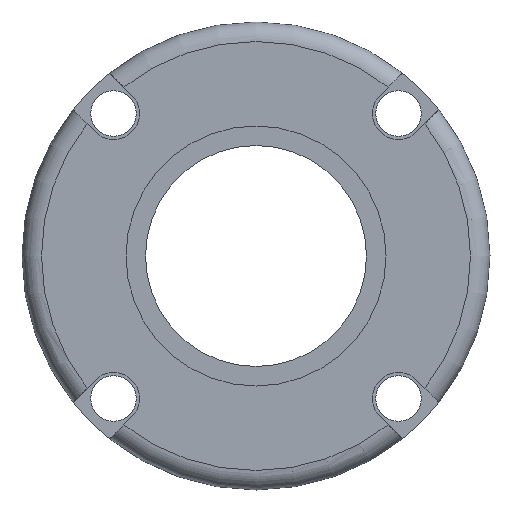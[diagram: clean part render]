
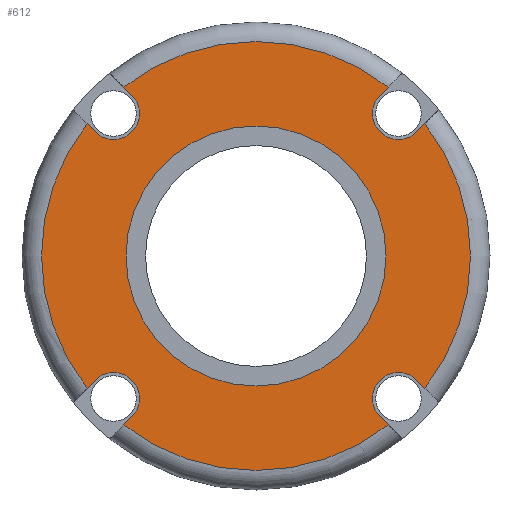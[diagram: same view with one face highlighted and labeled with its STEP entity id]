
A CAD part, left-side view. The second image highlights one B-rep face of the part: STEP entity #612.
In plain terms, the highlighted planar face has unit normal (-1, 0, 0).
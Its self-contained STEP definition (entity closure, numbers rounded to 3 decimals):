
#45=FACE_BOUND($,#202,.T.);
#46=FACE_BOUND($,#203,.T.);
#75=LINE($,#966,#115);
#79=LINE($,#976,#119);
#80=LINE($,#980,#120);
#81=LINE($,#984,#121);
#82=LINE($,#988,#122);
#83=LINE($,#992,#123);
#84=LINE($,#996,#124);
#85=LINE($,#1000,#125);
#115=VECTOR($,#740,1.757);
#119=VECTOR($,#748,1.757);
#120=VECTOR($,#751,1.757);
#121=VECTOR($,#754,1.757);
#122=VECTOR($,#757,1.757);
#123=VECTOR($,#760,1.757);
#124=VECTOR($,#763,1.757);
#125=VECTOR($,#766,1.757);
#156=PLANE($,#652);
#202=EDGE_LOOP($,(#458));
#203=EDGE_LOOP($,(#459,#460,#461,#462,#463,#464,#465,#466,#467,#468,#469,
#470,#471,#472,#473,#474));
#259=CIRCLE($,#650,33.);
#260=CIRCLE($,#653,20.);
#261=CIRCLE($,#654,4.);
#262=CIRCLE($,#655,33.);
#263=CIRCLE($,#656,4.);
#264=CIRCLE($,#657,33.);
#265=CIRCLE($,#658,4.);
#266=CIRCLE($,#659,33.);
#267=CIRCLE($,#660,4.);
#313=VERTEX_POINT($,#938);
#316=VERTEX_POINT($,#952);
#317=VERTEX_POINT($,#965);
#320=VERTEX_POINT($,#973);
#321=VERTEX_POINT($,#975);
#322=VERTEX_POINT($,#977);
#323=VERTEX_POINT($,#979);
#324=VERTEX_POINT($,#981);
#325=VERTEX_POINT($,#983);
#326=VERTEX_POINT($,#985);
#327=VERTEX_POINT($,#987);
#328=VERTEX_POINT($,#989);
#329=VERTEX_POINT($,#991);
#330=VERTEX_POINT($,#993);
#331=VERTEX_POINT($,#995);
#332=VERTEX_POINT($,#997);
#333=VERTEX_POINT($,#999);
#374=EDGE_CURVE($,#316,#313,#259,.T.);
#375=EDGE_CURVE($,#317,#313,#75,.T.);
#379=EDGE_CURVE($,#320,#320,#260,.T.);
#380=EDGE_CURVE($,#316,#321,#79,.T.);
#381=EDGE_CURVE($,#321,#322,#261,.T.);
#382=EDGE_CURVE($,#322,#323,#80,.T.);
#383=EDGE_CURVE($,#324,#323,#262,.T.);
#384=EDGE_CURVE($,#324,#325,#81,.T.);
#385=EDGE_CURVE($,#325,#326,#263,.T.);
#386=EDGE_CURVE($,#326,#327,#82,.T.);
#387=EDGE_CURVE($,#328,#327,#264,.T.);
#388=EDGE_CURVE($,#328,#329,#83,.T.);
#389=EDGE_CURVE($,#329,#330,#265,.T.);
#390=EDGE_CURVE($,#330,#331,#84,.T.);
#391=EDGE_CURVE($,#332,#331,#266,.T.);
#392=EDGE_CURVE($,#332,#333,#85,.T.);
#393=EDGE_CURVE($,#333,#317,#267,.T.);
#458=ORIENTED_EDGE($,*,*,#379,.T.);
#459=ORIENTED_EDGE($,*,*,#374,.F.);
#460=ORIENTED_EDGE($,*,*,#380,.T.);
#461=ORIENTED_EDGE($,*,*,#381,.T.);
#462=ORIENTED_EDGE($,*,*,#382,.T.);
#463=ORIENTED_EDGE($,*,*,#383,.F.);
#464=ORIENTED_EDGE($,*,*,#384,.T.);
#465=ORIENTED_EDGE($,*,*,#385,.T.);
#466=ORIENTED_EDGE($,*,*,#386,.T.);
#467=ORIENTED_EDGE($,*,*,#387,.F.);
#468=ORIENTED_EDGE($,*,*,#388,.T.);
#469=ORIENTED_EDGE($,*,*,#389,.T.);
#470=ORIENTED_EDGE($,*,*,#390,.T.);
#471=ORIENTED_EDGE($,*,*,#391,.F.);
#472=ORIENTED_EDGE($,*,*,#392,.T.);
#473=ORIENTED_EDGE($,*,*,#393,.T.);
#474=ORIENTED_EDGE($,*,*,#375,.T.);
#612=ADVANCED_FACE($,(#45,#46),#156,.T.);
#650=AXIS2_PLACEMENT_3D($,#963,#736,#737);
#652=AXIS2_PLACEMENT_3D($,#972,#744,#745);
#653=AXIS2_PLACEMENT_3D($,#974,#746,#747);
#654=AXIS2_PLACEMENT_3D($,#978,#749,#750);
#655=AXIS2_PLACEMENT_3D($,#982,#752,#753);
#656=AXIS2_PLACEMENT_3D($,#986,#755,#756);
#657=AXIS2_PLACEMENT_3D($,#990,#758,#759);
#658=AXIS2_PLACEMENT_3D($,#994,#761,#762);
#659=AXIS2_PLACEMENT_3D($,#998,#764,#765);
#660=AXIS2_PLACEMENT_3D($,#1001,#767,#768);
#736=DIRECTION('center_axis',(1.,0.,0.));
#737=DIRECTION('ref_axis',(0.,0.,-1.));
#740=DIRECTION($,(0.,0.707,-0.707));
#744=DIRECTION('center_axis',(-1.,0.,0.));
#745=DIRECTION('ref_axis',(0.,0.,1.));
#746=DIRECTION('center_axis',(1.,0.,0.));
#747=DIRECTION('ref_axis',(0.,0.,-1.));
#748=DIRECTION($,(0.,0.707,0.707));
#749=DIRECTION('center_axis',(1.,0.,0.));
#750=DIRECTION('ref_axis',(0.,0.,1.));
#751=DIRECTION($,(0.,-0.707,-0.707));
#752=DIRECTION('center_axis',(1.,0.,0.));
#753=DIRECTION('ref_axis',(0.,-1.,0.));
#754=DIRECTION($,(0.,0.707,-0.707));
#755=DIRECTION('center_axis',(1.,0.,0.));
#756=DIRECTION('ref_axis',(0.,1.,0.));
#757=DIRECTION($,(0.,-0.707,0.707));
#758=DIRECTION('center_axis',(1.,0.,0.));
#759=DIRECTION('ref_axis',(0.,0.,1.));
#760=DIRECTION($,(0.,-0.707,-0.707));
#761=DIRECTION('center_axis',(1.,0.,0.));
#762=DIRECTION('ref_axis',(0.,0.,-1.));
#763=DIRECTION($,(0.,0.707,0.707));
#764=DIRECTION('center_axis',(1.,0.,0.));
#765=DIRECTION('ref_axis',(0.,1.,0.));
#766=DIRECTION($,(0.,-0.707,0.707));
#767=DIRECTION('center_axis',(1.,0.,0.));
#768=DIRECTION('ref_axis',(0.,-1.,0.));
#938=CARTESIAN_POINT('',(0.,20.334,-25.991));
#952=CARTESIAN_POINT('',(0.,-20.334,-25.991));
#963=CARTESIAN_POINT('Origin',(0.,0.,0.));
#965=CARTESIAN_POINT('',(0.,19.092,-24.749));
#966=CARTESIAN_POINT($,(0.,17.132,-22.789));
#972=CARTESIAN_POINT('Origin',(0.,36.,0.));
#973=CARTESIAN_POINT('',(0.,20.,0.));
#974=CARTESIAN_POINT('Origin',(0.,0.,0.));
#975=CARTESIAN_POINT('',(0.,-19.092,-24.749));
#976=CARTESIAN_POINT($,(0.,-1.607,-7.263));
#977=CARTESIAN_POINT('',(0.,-24.749,-19.092));
#978=CARTESIAN_POINT('Origin',(0.,-21.92,-21.92));
#979=CARTESIAN_POINT('',(0.,-25.991,-20.334));
#980=CARTESIAN_POINT($,(0.,-4.789,0.868));
#981=CARTESIAN_POINT('',(0.,-25.991,20.334));
#982=CARTESIAN_POINT('Origin',(0.,0.,0.));
#983=CARTESIAN_POINT('',(0.,-24.749,19.092));
#984=CARTESIAN_POINT($,(0.,-7.263,1.607));
#985=CARTESIAN_POINT('',(0.,-19.092,24.749));
#986=CARTESIAN_POINT('Origin',(0.,-21.92,21.92));
#987=CARTESIAN_POINT('',(0.,-20.334,25.991));
#988=CARTESIAN_POINT($,(0.,0.868,4.789));
#989=CARTESIAN_POINT('',(0.,20.334,25.991));
#990=CARTESIAN_POINT('Origin',(0.,0.,0.));
#991=CARTESIAN_POINT('',(0.,19.092,24.749));
#992=CARTESIAN_POINT($,(0.,19.607,25.263));
#993=CARTESIAN_POINT('',(0.,24.749,19.092));
#994=CARTESIAN_POINT('Origin',(0.,21.92,21.92));
#995=CARTESIAN_POINT('',(0.,25.991,20.334));
#996=CARTESIAN_POINT($,(0.,22.789,17.132));
#997=CARTESIAN_POINT('',(0.,25.991,-20.334));
#998=CARTESIAN_POINT('Origin',(0.,0.,0.));
#999=CARTESIAN_POINT('',(0.,24.749,-19.092));
#1000=CARTESIAN_POINT($,(0.,25.263,-19.607));
#1001=CARTESIAN_POINT('Origin',(0.,21.92,-21.92));
